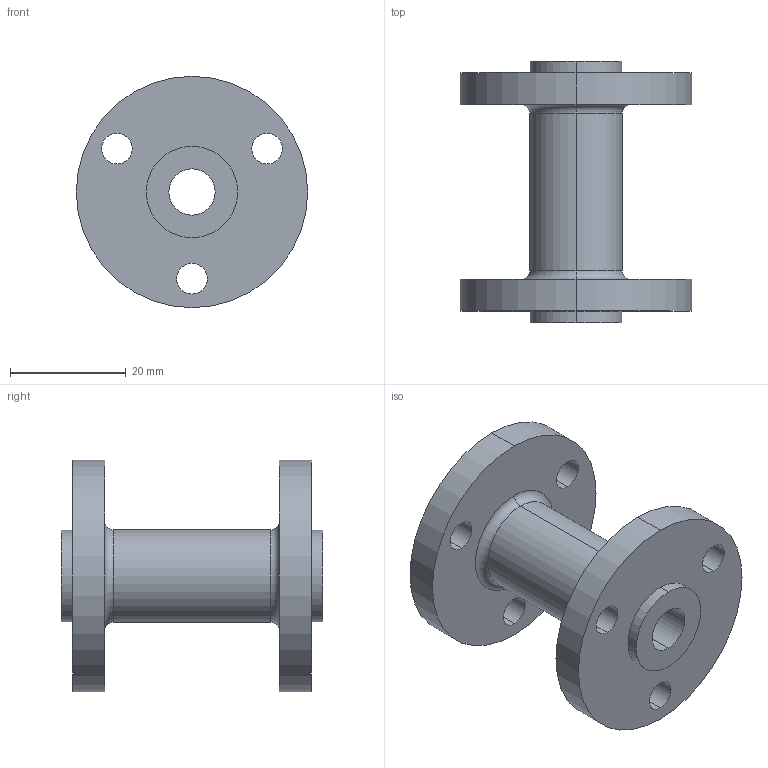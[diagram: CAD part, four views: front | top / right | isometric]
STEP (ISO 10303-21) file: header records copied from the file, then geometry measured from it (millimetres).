
FILE_DESCRIPTION (( 'STEP AP214' ), '1' );
FILE_NAME ('Pressure Vessel_v2.STEP', '2023-02-17T18:57:50', ( '' ), ( '' ), 'SwSTEP 2.0', 'SolidWorks 2022', '' );
FILE_SCHEMA (( 'AUTOMOTIVE_DESIGN' ));
Length unit declared in the file: millimetre
Products named in the file (1): Pressure Vessel_v2
Bounding box: 40 x 45.2 x 40 mm (x, y, z)
Volume: 17729.9 mm3; surface area: 8980.8 mm2
Topology: 1 solids, 1 shells, 34 faces, 80 edges, 52 vertices
Faces by surface type: cylinder 24, plane 6, torus 4
Entity records: 1070 total; most frequent: DIRECTION 206, CARTESIAN_POINT 167, ORIENTED_EDGE 160, AXIS2_PLACEMENT_3D 91, EDGE_CURVE 80, CIRCLE 56, EDGE_LOOP 52, VERTEX_POINT 52
